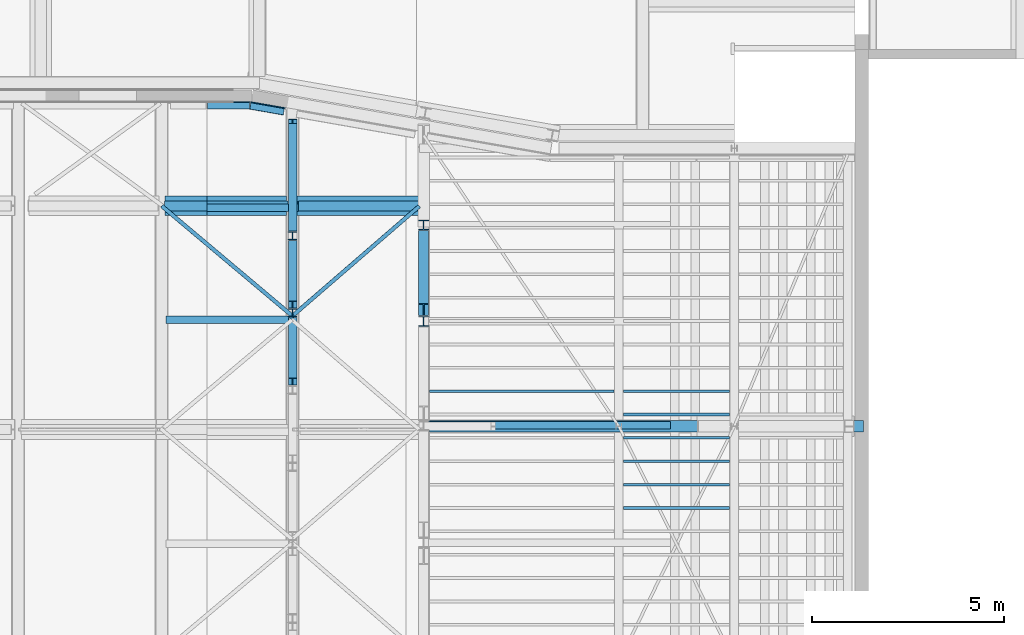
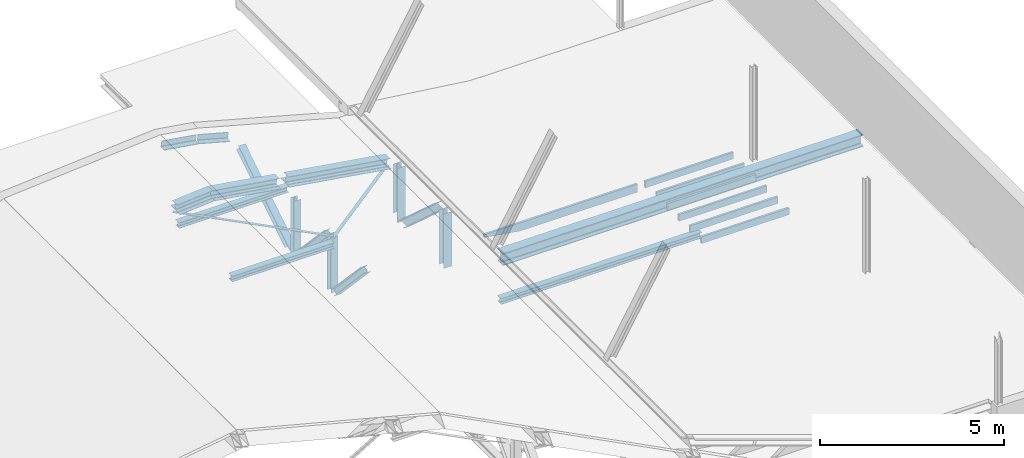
# One storey, part 30 of 50: 26 beams.
"""IFC2X3 building model written with IfcOpenShell, lengths in millimetres."""

from ifc_helpers import new_model, entity, si_unit, converted_unit, derived_unit, direction, frame, frame_2d, origin, place, context, subcontext, project, spatial, polyline, circle_curve, parameter, trimmed, segment, composite_curve, rectangle, i_section, outline, extrude, clip, halfspace, bounded_halfspace, source, transform, mapped, material, material_list, type_object, type_shapes, element, save


model = new_model("IFC2X3")

# Units and contexts
model_context = context("Model", 3, precision=0.01, world=origin(), true_north=direction((6.12303176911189e-17, 1.0)))
body_context = subcontext(model_context, "Body", "Model", "MODEL_VIEW")
ifc_project = project(units=[si_unit("LENGTHUNIT", "METRE", prefix="MILLI"), si_unit("AREAUNIT", "SQUARE_METRE", prefix="MILLI"), si_unit("VOLUMEUNIT", "CUBIC_METRE"), converted_unit("PLANEANGLEUNIT", "DEGREE", entity("IfcRatioMeasure", 0.0174532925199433), si_unit("PLANEANGLEUNIT", "RADIAN"), dimensions=[0, 0, 0, 0, 0, 0, 0]), si_unit("MASSUNIT", "GRAM", prefix="KILO"), derived_unit("MASSDENSITYUNIT", [(si_unit("MASSUNIT", "GRAM", prefix="KILO"), 1), (si_unit("LENGTHUNIT", "METRE"), -3)]), derived_unit("MOMENTOFINERTIAUNIT", [(si_unit("LENGTHUNIT", "METRE"), 4)]), si_unit("TIMEUNIT", "SECOND"), si_unit("FREQUENCYUNIT", "HERTZ"), si_unit("THERMODYNAMICTEMPERATUREUNIT", "DEGREE_CELSIUS"), derived_unit("THERMALTRANSMITTANCEUNIT", [(si_unit("MASSUNIT", "GRAM", prefix="KILO"), 1), (si_unit("THERMODYNAMICTEMPERATUREUNIT", "KELVIN"), -1), (si_unit("TIMEUNIT", "SECOND"), -3)]), derived_unit("VOLUMETRICFLOWRATEUNIT", [(si_unit("LENGTHUNIT", "METRE"), 3), (si_unit("TIMEUNIT", "SECOND"), -1)]), si_unit("ELECTRICCURRENTUNIT", "AMPERE"), si_unit("ELECTRICVOLTAGEUNIT", "VOLT"), si_unit("POWERUNIT", "WATT"), si_unit("FORCEUNIT", "NEWTON", prefix="KILO"), si_unit("ILLUMINANCEUNIT", "LUX"), si_unit("LUMINOUSFLUXUNIT", "LUMEN"), si_unit("LUMINOUSINTENSITYUNIT", "CANDELA"), derived_unit("USERDEFINED", [(si_unit("MASSUNIT", "GRAM", prefix="KILO"), -1), (si_unit("LENGTHUNIT", "METRE"), -2), (si_unit("TIMEUNIT", "SECOND"), 3), (si_unit("LUMINOUSFLUXUNIT", "LUMEN"), 1)]), derived_unit("LINEARVELOCITYUNIT", [(si_unit("LENGTHUNIT", "METRE"), 1), (si_unit("TIMEUNIT", "SECOND"), -1)]), si_unit("PRESSUREUNIT", "PASCAL"), derived_unit("USERDEFINED", [(si_unit("LENGTHUNIT", "METRE"), -2), (si_unit("MASSUNIT", "GRAM", prefix="KILO"), 1), (si_unit("TIMEUNIT", "SECOND"), -2)]), derived_unit("LINEARFORCEUNIT", [(si_unit("MASSUNIT", "GRAM", prefix="KILO"), 1), (si_unit("LENGTHUNIT", "METRE"), 1), (si_unit("TIMEUNIT", "SECOND"), -2), (si_unit("LENGTHUNIT", "METRE"), -1)]), derived_unit("PLANARFORCEUNIT", [(si_unit("MASSUNIT", "GRAM", prefix="KILO"), 1), (si_unit("LENGTHUNIT", "METRE"), 1), (si_unit("TIMEUNIT", "SECOND"), -2), (si_unit("LENGTHUNIT", "METRE"), -2)])], contexts=[model_context])

# Site, building, storey
site_placement = place(None, origin())
site = spatial("IfcSite", under=ifc_project, at=site_placement, Name="Theater aan de Parade", CompositionType="ELEMENT")
building_placement = place(site_placement, origin())
building = spatial("IfcBuilding", under=site, at=building_placement, Name="Theater aan de Parade", CompositionType="ELEMENT")
storey_placement = place(building_placement, frame((0.0, 0.0, 15820.0)))
storey = spatial("IfcBuildingStorey", under=building, at=storey_placement, Name="04 vierde verdieping", CompositionType="ELEMENT", Elevation=15820.0)

# Beams
ifc_material_1 = material(Name="00_PBT_MAT_staal_S355")
beam_type_1 = type_object("IfcBeamType", Name="28_PBT_SF_staal_H-profiel:S355_HE220B", PredefinedType="NOTDEFINED")
beam_1_placement = place(storey_placement, frame((52739.1873742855, 40420.0, -650.0), z_axis=(0.0, -0.532042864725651, 0.846717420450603), x_axis=(0.0, 0.846717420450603, 0.532042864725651)))
element("IfcBeam", 1, at=beam_1_placement, inside=storey, type_object=beam_type_1, material=ifc_material_1, Name="28_PBT_SF_staal_H-profiel:S355_HE220B", ObjectType="28_PBT_SF_staal_H-profiel:S355_HE220B", context=body_context, shape_type="Clipping", body=[
    clip(clip(extrude(i_section(OverallWidth=220.000000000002, OverallDepth=220.000000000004, WebThickness=9.49999999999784, FlangeThickness=16.0000000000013, FilletRadius=17.999999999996, at=frame_2d((2.74980038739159e-12, -8.66862137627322e-12), x_axis=(0.0, 1.0))), frame((175.005249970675, 0.0, 0.0), z_axis=(1.0, 0.0, 0.0), x_axis=(0.0, 0.0, -1.0)), (0.0, 0.0, 1.0), 3339.94488535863), bounded_halfspace(frame((-13800.8287415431, -130.0, 8825.41480634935), z_axis=(-0.532042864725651, 0.0, -0.846717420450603), x_axis=(0.846717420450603, 0.0, -0.532042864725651)), False, frame((175.005249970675, 0.0, 0.0), z_axis=(1.0, 0.0, 0.0), x_axis=(0.0, 0.0, -1.0)), polyline([(94.0, 110.0), (110.0, 110.0), (110.0, -110.0), (94.0, -110.0), (94.0, -22.7500000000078), (76.0, -4.75000000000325), (-43.5679065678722, -4.74999999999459), (-43.5679065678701, 4.74999999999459), (76.0, 4.74999999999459), (94.0, 22.7499999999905), (94.0, 110.0)]))), bounded_halfspace(frame((160.480479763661, 130.0, 20.4525209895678), z_axis=(-0.846717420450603, 0.0, 0.532042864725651), x_axis=(0.532042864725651, 0.0, 0.846717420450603)), False, frame((175.005249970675, 0.0, 0.0), z_axis=(1.0, 0.0, 0.0), x_axis=(0.0, 0.0, -1.0)), polyline([(-76.0, 4.74999999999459), (-43.5679065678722, 4.75000000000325), (-43.5679065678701, -4.75000000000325), (-76.0, -4.75000000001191), (-94.0, -22.7500000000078), (-94.0, -110.0), (-110.0, -110.0), (-110.0, 110.0), (-94.0, 110.0), (-94.0, 22.7499999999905), (-76.0, 4.74999999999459)]))),
])
beam_type_2 = type_object("IfcBeamType", Name="28_PBT_SF_staal_H-profiel:S355_HE220A", PredefinedType="NOTDEFINED")
beam_2_placement = place(storey_placement, frame((52739.1873742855, 40420.0, -650.0), z_axis=(1.0, 0.0, 0.0), x_axis=(0.0, 0.0, 1.0)))
element("IfcBeam", 2, at=beam_2_placement, inside=storey, type_object=beam_type_2, material=ifc_material_1, Name="28_PBT_SF_staal_H-profiel:S355_HE220A", ObjectType="28_PBT_SF_staal_H-profiel:S355_HE220A", context=body_context, shape_type="SweptSolid", body=[
    extrude(i_section(OverallWidth=220.000000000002, OverallDepth=210.000000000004, WebThickness=6.99999999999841, FlangeThickness=10.9999999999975, FilletRadius=17.9999999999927, at=frame_2d((8.66862137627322e-12, 0.0), x_axis=(1.0, 0.0))), frame((122.700000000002, 0.0, 0.0), z_axis=(1.0, 0.0, 0.0), x_axis=(0.0, 0.0, -1.0)), (0.0, 0.0, 1.0), 1834.6),
])
beam_3_placement = place(storey_placement, frame((52739.1873742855, 38420.0, -650.0), z_axis=(1.0, 0.0, 0.0), x_axis=(0.0, 0.0, 1.0)))
element("IfcBeam", 3, at=beam_3_placement, inside=storey, type_object=beam_type_2, material=ifc_material_1, Name="28_PBT_SF_staal_H-profiel:S355_HE220A", ObjectType="28_PBT_SF_staal_H-profiel:S355_HE220A", context=body_context, shape_type="SweptSolid", body=[
    extrude(i_section(OverallWidth=220.000000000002, OverallDepth=210.000000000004, WebThickness=6.99999999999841, FlangeThickness=10.9999999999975, FilletRadius=17.9999999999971, at=frame_2d((8.66862137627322e-12, -8.66862137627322e-12), x_axis=(1.0, 0.0))), frame((122.700000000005, 0.0, 0.0), z_axis=(1.0, 0.0, 0.0), x_axis=(0.0, 0.0, -1.0)), (0.0, 0.0, 1.0), 1834.6),
])
beam_4_placement = place(storey_placement, frame((52739.1873742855, 38420.0, 1480.0), z_axis=(1.0, 0.0, 0.0), x_axis=(0.0, 0.684510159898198, -0.729003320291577)))
element("IfcBeam", 4, at=beam_4_placement, inside=storey, type_object=beam_type_2, material=ifc_material_1, Name="28_PBT_SF_staal_H-profiel:S355_HE220A", ObjectType="28_PBT_SF_staal_H-profiel:S355_HE220A", context=body_context, shape_type="Clipping", body=[
    clip(clip(clip(clip(extrude(i_section(OverallWidth=220.000000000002, OverallDepth=210.000000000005, WebThickness=6.99999999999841, FlangeThickness=11.0000000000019, FilletRadius=17.9999999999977, at=frame_2d((8.66862137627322e-12, -5.37880850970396e-12), x_axis=(1.0, 0.0))), frame((216.784367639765, 0.0, 0.0), z_axis=(1.0, 0.0, 0.0), x_axis=(0.0, 0.0, -1.0)), (0.0, 0.0, 1.0), 2524.6788227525), halfspace(frame((-8385.86626270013, -11852.744961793, 130.0), z_axis=(0.729003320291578, -0.684510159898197, 0.0), x_axis=(0.684510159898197, 0.729003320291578, 0.0)), False)), halfspace(frame((1563.4722012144, -1296.58203212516, -130.0), z_axis=(-0.684510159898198, -0.729003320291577, 0.0), x_axis=(-0.729003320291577, 0.684510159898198, 0.0)), False)), halfspace(frame((2761.36498103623, -20.8262216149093, 130.0), z_axis=(0.684510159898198, 0.729003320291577, 0.0), x_axis=(-0.729003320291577, 0.684510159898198, 0.0)), False)), halfspace(frame((-11757.7284442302, -12784.9425583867, -170.0), z_axis=(-0.729003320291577, 0.684510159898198, 0.0), x_axis=(0.684510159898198, 0.729003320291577, 0.0)), False)),
])
beam_5_placement = place(storey_placement, frame((52739.1873742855, 36420.0, 1480.0), z_axis=(1.0, 0.0, 0.0), x_axis=(0.0, 0.684510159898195, -0.72900332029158)))
element("IfcBeam", 5, at=beam_5_placement, inside=storey, type_object=beam_type_2, material=ifc_material_1, Name="28_PBT_SF_staal_H-profiel:S355_HE220A", ObjectType="28_PBT_SF_staal_H-profiel:S355_HE220A", context=body_context, shape_type="Clipping", body=[
    clip(clip(clip(clip(extrude(i_section(OverallWidth=220.000000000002, OverallDepth=210.000000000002, WebThickness=6.99999999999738, FlangeThickness=10.9999999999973, FilletRadius=17.9999999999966, at=frame_2d((8.66862137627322e-12, 7.38964445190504e-13), x_axis=(1.0, 0.0))), frame((216.78436763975, 0.0, 0.0), z_axis=(1.0, 0.0, 0.0), x_axis=(0.0, 0.0, -1.0)), (0.0, 0.0, 1.0), 2524.6788227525), halfspace(frame((-7016.84594290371, -10394.7383212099, 130.0), z_axis=(0.72900332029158, -0.684510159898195, 0.0), x_axis=(0.684510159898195, 0.72900332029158, 0.0)), False)), halfspace(frame((1563.47220121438, -1296.58203212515, -130.0), z_axis=(-0.684510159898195, -0.72900332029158, 0.0), x_axis=(-0.72900332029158, 0.684510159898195, 0.0)), False)), halfspace(frame((2761.36498103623, -20.8262216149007, 130.0), z_axis=(0.684510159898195, 0.72900332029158, 0.0), x_axis=(-0.72900332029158, 0.684510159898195, 0.0)), False)), halfspace(frame((-10388.7081244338, -11326.9359178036, -170.0), z_axis=(-0.72900332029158, 0.684510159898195, 0.0), x_axis=(0.684510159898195, 0.72900332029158, 0.0)), False)),
])
beam_type_3 = type_object("IfcBeamType", Name="28_PBT_SF_staal_L-profiel:S355_L200x200x20", PredefinedType="NOTDEFINED")
beam_6_placement = place(storey_placement, frame((50584.5809422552, 43853.1999999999, 2059.28942153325), z_axis=(0.156434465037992, 0.0, 0.987688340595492), x_axis=(0.987688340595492, 0.0, -0.156434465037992)))
element("IfcBeam", 6, at=beam_6_placement, inside=storey, type_object=beam_type_3, material=ifc_material_1, Name="28_PBT_SF_staal_L-profiel:S355_L200x200x20", ObjectType="28_PBT_SF_staal_L-profiel:S355_L200x200x20", context=body_context, shape_type="SweptSolid", body=[
    extrude(outline(composite_curve([segment(polyline([(64.5555555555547, -124.444444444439), (75.5555555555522, -124.444444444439)]), True, "CONTINUOUS"), segment(polyline([(75.5555555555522, -124.444444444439), (75.5555555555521, 75.5555555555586)]), True, "CONTINUOUS"), segment(polyline([(75.5555555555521, 75.5555555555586), (-124.44444444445, 75.5555555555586)]), True, "CONTINUOUS"), segment(polyline([(-124.444444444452, 75.5555555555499), (-124.44444444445, 64.5555555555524)]), True, "CONTINUOUS"), segment(trimmed(circle_curve(frame_2d((-115.444444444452, 64.5555555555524), x_axis=(-1.0, 0.0)), 8.99999999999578), [parameter(0.0)], [parameter(90.0000000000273)], True, "PARAMETER"), True, "CONTINUOUS"), segment(polyline([(-115.444444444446, 55.5555555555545), (37.5555555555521, 55.5555555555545)]), True, "CONTINUOUS"), segment(trimmed(circle_curve(frame_2d((37.5555555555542, 37.5555555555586), x_axis=(0.0, 1.0)), 17.9999999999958), [parameter(269.999999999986)], [parameter(0.0)], True, "PARAMETER"), False, "CONTINUOUS"), segment(polyline([(55.5555555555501, 37.5555555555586), (55.5555555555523, -115.444444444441)]), True, "CONTINUOUS"), segment(trimmed(circle_curve(frame_2d((64.555555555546, -115.444444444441), x_axis=(-1.0, 0.0)), 8.99999999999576), [parameter(0.0)], [parameter(90.000000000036)], True, "PARAMETER"), True, "CONTINUOUS")], self_intersect=False)), frame((0.0, -18.7555555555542, -319.444444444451), z_axis=(1.0, 0.0, 0.0), x_axis=(0.0, 0.0, -1.0)), (0.0, 0.0, 1.0), 1102.47200859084),
])
beam_7_placement = place(storey_placement, frame((51708.598092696, 43851.0969372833, 1881.26259424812), z_axis=(0.15184123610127, -0.0265722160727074, 0.988047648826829), x_axis=(0.973257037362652, -0.170319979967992, -0.154148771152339)))
element("IfcBeam", 7, at=beam_7_placement, inside=storey, type_object=beam_type_3, material=ifc_material_1, Name="28_PBT_SF_staal_L-profiel:S355_L200x200x20", ObjectType="28_PBT_SF_staal_L-profiel:S355_L200x200x20", context=body_context, shape_type="SweptSolid", body=[
    extrude(outline(composite_curve([segment(polyline([(-75.5555555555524, -75.555555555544), (124.444444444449, -75.5555555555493)]), True, "CONTINUOUS"), segment(polyline([(124.444444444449, -75.555555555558), (124.444444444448, -64.555555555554)]), True, "CONTINUOUS"), segment(trimmed(circle_curve(frame_2d((115.444444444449, -64.5555555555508), x_axis=(1.0, 0.0)), 8.99999999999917), [parameter(0.0)], [parameter(90.0000000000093)], True, "PARAMETER"), True, "CONTINUOUS"), segment(polyline([(115.444444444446, -55.55555555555), (-37.5555555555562, -55.5555555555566)]), True, "CONTINUOUS"), segment(trimmed(circle_curve(frame_2d((-37.5555555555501, -37.555555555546), x_axis=(0.0, -1.0)), 18.0000000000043), [parameter(270.000000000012)], [parameter(0.0)], True, "PARAMETER"), False, "CONTINUOUS"), segment(polyline([(-55.5555555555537, -37.5555555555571), (-55.5555555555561, 115.444444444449)]), True, "CONTINUOUS"), segment(trimmed(circle_curve(frame_2d((-64.5555555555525, 115.444444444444), x_axis=(1.0, 0.0)), 8.99999999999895), [parameter(0.0)], [parameter(90.0000000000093)], True, "PARAMETER"), True, "CONTINUOUS"), segment(polyline([(-64.5555555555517, 124.444444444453), (-75.5555555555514, 124.444444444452)]), True, "CONTINUOUS"), segment(polyline([(-75.5555555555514, 124.444444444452), (-75.5555555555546, -75.5555555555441)]), True, "CONTINUOUS")], self_intersect=False)), frame((0.0, -27.3629456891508, -318.822510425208), z_axis=(1.0, 0.0, 0.0), x_axis=(0.0, 0.0269662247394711, 0.999636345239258)), (0.0, 0.0, 1.0), 893.107966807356),
])
beam_type_4 = type_object("IfcBeamType", Name="28_PBT_SF_staal_H-profiel:S355_HE200A", PredefinedType="NOTDEFINED")
beam_8_placement = place(storey_placement, frame((52629.1873742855, 38240.0, 0.0), z_axis=(0.0, 0.0, 1.0), x_axis=(-1.0, 0.0, 0.0)))
element("IfcBeam", 8, at=beam_8_placement, inside=storey, type_object=beam_type_4, material=ifc_material_1, Name="28_PBT_SF_staal_H-profiel:S355_HE200A", ObjectType="28_PBT_SF_staal_H-profiel:S355_HE200A", context=body_context, shape_type="SweptSolid", body=[
    extrude(i_section(OverallWidth=199.999999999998, OverallDepth=190.0, WebThickness=6.50000000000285, FlangeThickness=9.99999999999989, FilletRadius=18.0000000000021, at=frame_2d((2.16715534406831e-12, 2.16715534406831e-12), x_axis=(0.0, 1.0))), frame((0.0, 0.0, 1165.0), z_axis=(1.0, 0.0, 0.0), x_axis=(0.0, 0.0, -1.0)), (0.0, 0.0, 1.0), 3184.18737428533),
])
beam_9_placement = place(storey_placement, frame((52889.1873742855, 41150.0, 0.0), z_axis=(0.0, 0.0, 1.0), x_axis=(-1.0, 0.0, 0.0)))
element("IfcBeam", 9, at=beam_9_placement, inside=storey, type_object=beam_type_4, material=ifc_material_1, Name="28_PBT_SF_staal_H-profiel:S355_HE200A", ObjectType="28_PBT_SF_staal_H-profiel:S355_HE200A", context=body_context, shape_type="SweptSolid", body=[
    extrude(i_section(OverallWidth=199.999999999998, OverallDepth=190.0, WebThickness=6.49999999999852, FlangeThickness=9.99999999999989, FilletRadius=17.9999999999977, at=frame_2d((2.16715534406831e-12, -4.33431068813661e-12), x_axis=(0.0, 1.0))), frame((0.0, 0.0, 1165.0), z_axis=(1.0, 0.0, 0.0), x_axis=(0.0, 0.0, -1.0)), (0.0, 0.0, 1.0), 3432.76164612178),
])
beam_10_placement = place(storey_placement, frame((62560.0, 35500.0, 0.0), z_axis=(0.0, 0.0, 1.0), x_axis=(-1.0, 0.0, 0.0)))
element("IfcBeam", 10, at=beam_10_placement, inside=storey, type_object=beam_type_4, material=ifc_material_1, Name="28_PBT_SF_staal_H-profiel:S355_HE200A", ObjectType="28_PBT_SF_staal_H-profiel:S355_HE200A", context=body_context, shape_type="SweptSolid", body=[
    extrude(i_section(OverallWidth=199.999999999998, OverallDepth=190.0, WebThickness=6.50000000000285, FlangeThickness=9.99999999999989, FilletRadius=18.0000000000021, at=frame_2d((0.0, -2.16715534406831e-12), x_axis=(0.0, 1.0))), frame((0.0, 0.0, -310.0), z_axis=(1.0, 0.0, 0.0), x_axis=(0.0, 0.0, -1.0)), (0.0, 0.0, 1.0), 6286.62525142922),
])
beam_type_5 = type_object("IfcBeamType", Name="28_PBT_SF_staal_H-profiel:S355_HE260B", PredefinedType="NOTDEFINED")
beam_11_placement = place(storey_placement, frame((56143.3747485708, 38200.0, 1290.0), z_axis=(0.0, 0.66896473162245, 0.743294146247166), x_axis=(0.0, 0.743294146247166, -0.66896473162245)))
element("IfcBeam", 11, at=beam_11_placement, inside=storey, type_object=beam_type_5, material=ifc_material_1, Name="28_PBT_SF_staal_H-profiel:S355_HE260B", ObjectType="28_PBT_SF_staal_H-profiel:S355_HE260B", context=body_context, shape_type="Clipping", body=[
    clip(clip(clip(clip(extrude(outline(composite_curve([segment(polyline([(112.499999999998, -130.0), (130.0, -130.0)]), True, "CONTINUOUS"), segment(polyline([(130.0, -130.0), (130.0, 130.0)]), True, "CONTINUOUS"), segment(polyline([(130.0, 130.0), (112.5, 130.0)]), True, "CONTINUOUS"), segment(polyline([(112.500000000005, 130.0), (112.5, 29.0)]), True, "CONTINUOUS"), segment(trimmed(circle_curve(frame_2d((88.4999999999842, 29.0), x_axis=(1.0, 0.0)), 24.0000000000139), [parameter(270.000000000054)], [parameter(0.0)], True, "PARAMETER"), False, "CONTINUOUS"), segment(polyline([(88.499999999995, 5.0), (-88.5000000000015, 5.0)]), True, "CONTINUOUS"), segment(trimmed(circle_curve(frame_2d((-88.4999999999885, 29.0), x_axis=(0.0, -1.0)), 24.000000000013), [parameter(270.00000000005)], [parameter(0.0)], True, "PARAMETER"), False, "CONTINUOUS"), segment(polyline([(-112.5, 29.0), (-112.5, 130.0)]), True, "CONTINUOUS"), segment(polyline([(-112.5, 130.0), (-130.0, 130.0)]), True, "CONTINUOUS"), segment(polyline([(-130.0, 130.0), (-130.0, -130.0)]), True, "CONTINUOUS"), segment(polyline([(-130.0, -130.0), (-112.5, -130.0)]), True, "CONTINUOUS"), segment(polyline([(-112.5, -130.0), (-112.5, -29.0)]), True, "CONTINUOUS"), segment(trimmed(circle_curve(frame_2d((-88.4999999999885, -29.0), x_axis=(-1.0, 0.0)), 24.000000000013), [parameter(270.00000000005)], [parameter(0.0)], True, "PARAMETER"), False, "CONTINUOUS"), segment(polyline([(-88.4999999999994, -5.0), (88.4999999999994, -5.0)]), True, "CONTINUOUS"), segment(trimmed(circle_curve(frame_2d((88.4999999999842, -29.0), x_axis=(0.0, 1.0)), 24.0000000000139), [parameter(270.000000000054)], [parameter(0.0)], True, "PARAMETER"), False, "CONTINUOUS"), segment(polyline([(112.500000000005, -29.0), (112.500000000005, -130.0)]), True, "CONTINUOUS")], self_intersect=False)), frame((271.674010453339, 0.0, 0.0), z_axis=(1.0, 0.0, 0.0), x_axis=(0.0, 0.0, -1.0)), (0.0, 0.0, 1.0), 2836.7821091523), halfspace(frame((-9215.40324058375, -170.0, -11024.9485980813), z_axis=(0.66896473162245, 0.0, -0.743294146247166), x_axis=(0.743294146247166, 0.0, 0.66896473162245)), False)), halfspace(frame((1484.0387935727, 150.0, -1432.17916098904), z_axis=(-0.743294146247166, 0.0, -0.66896473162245), x_axis=(-0.66896473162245, 0.0, 0.743294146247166)), False)), halfspace(frame((3126.71885677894, -150.0, 46.232895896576), z_axis=(0.743294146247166, 0.0, 0.66896473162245), x_axis=(-0.66896473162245, 0.0, 0.743294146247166)), False)), halfspace(frame((-12233.3360800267, 170.0, -11339.6162611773), z_axis=(-0.66896473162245, 0.0, 0.743294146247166), x_axis=(0.743294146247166, 0.0, 0.66896473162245)), False)),
])
ifc_material_2 = material(Name="00_PBT_MAT_staal")
beam_type_6 = type_object("IfcBeamType", Name="28_PBT_SF_staal_strip:strip 100x10", PredefinedType="NOTDEFINED")
beam_12_placement = place(storey_placement, frame((52733.8997913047, 38285.4878460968, 1718.87075855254), z_axis=(0.0899792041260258, 0.0778065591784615, 0.99289973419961), x_axis=(0.751047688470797, 0.649443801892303, -0.118954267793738)))
element("IfcBeam", 12, at=beam_12_placement, inside=storey, type_object=beam_type_6, material=ifc_material_2, Name="28_PBT_SF_staal_strip:strip 100x10", ObjectType="28_PBT_SF_staal_strip:strip 100x10", context=body_context, shape_type="SweptSolid", body=[
    extrude(rectangle(XDim=10.0000000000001, YDim=99.9999999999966, at=frame_2d((6.07514039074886e-12, -6.77236045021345e-13), x_axis=(0.0, 1.0))), frame((0.0, 41.4403721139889, -402.874292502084), z_axis=(1.0, 0.0, 0.0), x_axis=(0.0, -0.994751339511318, -0.102321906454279)), (0.0, 0.0, 1.0), 4473.55954864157),
])
beam_13_placement = place(storey_placement, frame((49341.9024959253, 41194.8133673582, 1589.46746619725), z_axis=(0.0450844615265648, -0.0379427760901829, 0.99826235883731), x_axis=(0.76377472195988, -0.642787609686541, -0.0589259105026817)))
element("IfcBeam", 13, at=beam_13_placement, inside=storey, type_object=beam_type_6, material=ifc_material_2, Name="28_PBT_SF_staal_strip:strip 100x10", ObjectType="28_PBT_SF_staal_strip:strip 100x10", context=body_context, shape_type="SweptSolid", body=[
    extrude(rectangle(XDim=10.0000000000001, YDim=99.9999999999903, at=frame_2d((0.0, 0.0), x_axis=(0.0, 1.0))), frame((0.0, -0.247653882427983, -4.99386298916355), z_axis=(1.0, 0.0, 0.0), x_axis=(0.0, -0.998772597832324, 0.0495307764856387)), (0.0, 0.0, 1.0), 4430.68427961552),
])
ifc_material_3 = material(Name="00_PBT_MAT_Lucht")
ifc_material_list_1 = material_list([ifc_material_3, ifc_material_1])
beam_type_7 = type_object("IfcBeamType", Name="28_PBT_SF_staal_H-profiel_met_onderplaat (void):S355_HE260A + onderplaat d=12", PredefinedType="BEAM", material=ifc_material_list_1)
shared_shape_1 = source(origin(), body_context, "Body", "Clipping", [
    clip(extrude(i_section(OverallWidth=260.000000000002, OverallDepth=250.000000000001, WebThickness=7.49999999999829, FlangeThickness=12.5, FilletRadius=24.0000000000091, at=frame_2d((4.32009983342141e-12, 2.1458390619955e-12), x_axis=(1.0, 0.0))), frame((50495.0112438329, 41198.5633673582, 17640.3595866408), z_axis=(0.987688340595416, 0.0, -0.156434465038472), x_axis=(0.0, 1.0, 0.0)), (0.0, 0.0, 1.0), 2131.0900858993), halfspace(frame((50514.5655519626, 32410.0, 23110.0), z_axis=(-1.0, 0.0, 0.0), x_axis=(0.0, 0.0, 1.0)), False)),
    clip(extrude(rectangle(XDim=11.9999999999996, YDim=509.999999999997, at=frame_2d((-4.33431068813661e-12, 1.0689227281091e-12), x_axis=(0.0, 1.0))), frame((50513.6269451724, 41198.5633673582, 17504.7782177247), z_axis=(0.987688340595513, 0.0, -0.156434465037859), x_axis=(0.0, 1.0, 0.0)), (0.0, 0.0, 1.0), 2091.49397581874), halfspace(frame((50514.5655519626, 32410.0, 23110.0), z_axis=(-1.0, 0.0, 0.0), x_axis=(0.0, 0.0, 1.0)), False)),
])
type_shapes(beam_type_7, [shared_shape_1])
beam_14_placement = place(storey_placement, frame((0.0, 0.0, -15820.0)))
element("IfcBeam", 14, at=beam_14_placement, inside=storey, type_object=beam_type_7, material=ifc_material_1, Name="28_PBT_SF_staal_H-profiel_met_onderplaat (void):S355_HE260A + onderplaat d=12", ObjectType="28_PBT_SF_staal_H-profiel_met_onderplaat (void):S355_HE260A + onderplaat d=12", context=body_context, shape_type="MappedRepresentation", body=[
    mapped(shared_shape_1, transform((0.0, 0.0, 0.0), scale=1.0)),
])
ifc_material_list_2 = material_list([ifc_material_3, ifc_material_1])
beam_type_8 = type_object("IfcBeamType", Name="28_PBT_SF_staal_H-profiel_met_onderplaat (void):S355_HE260A + onderplaat d=12", PredefinedType="BEAM", material=ifc_material_list_2)
shared_shape_2 = source(origin(), body_context, "Body", "SweptSolid", [
    extrude(rectangle(XDim=12.0, YDim=510.0, at=frame_2d((6.26165785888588e-13, -1.4210854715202e-14), x_axis=(1.0, 0.0))), frame((-1607.76153233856, 0.0, -131.0), z_axis=(1.0, 0.0, 0.0), x_axis=(0.0, 0.0, -1.0)), (0.0, 0.0, 1.0), 3215.52306467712),
    extrude(i_section(OverallWidth=260.0, OverallDepth=250.0, WebThickness=7.49999999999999, FlangeThickness=12.4999999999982, FilletRadius=24.0, at=frame_2d((-4.05009359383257e-13, 0.0), x_axis=(0.0, 1.0))), frame((-1607.76153233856, 0.0, 0.0), z_axis=(1.0, 0.0, 0.0), x_axis=(0.0, 0.0, -1.0)), (0.0, 0.0, 1.0), 3215.52306467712),
])
type_shapes(beam_type_8, [shared_shape_2])
beam_15_placement = place(storey_placement, frame((54466.6804133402, 41198.5633673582, 1191.30898808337), z_axis=(0.156434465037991, 0.0, 0.987688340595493), x_axis=(0.987688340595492, 0.0, -0.156434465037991)))
element("IfcBeam", 15, at=beam_15_placement, inside=storey, type_object=beam_type_8, material=ifc_material_1, Name="28_PBT_SF_staal_H-profiel_met_onderplaat (void):S355_HE260A + onderplaat d=12", ObjectType="28_PBT_SF_staal_H-profiel_met_onderplaat (void):S355_HE260A + onderplaat d=12", context=body_context, shape_type="MappedRepresentation", body=[
    mapped(shared_shape_2, transform((0.0, 0.0, 0.0), scale=1.0)),
])
ifc_material_list_3 = material_list([ifc_material_1, ifc_material_3])
beam_type_9 = type_object("IfcBeamType", Name="28_PBT_SF_staal_H-profiel_met_onderplaat (void):S355_HE260A + onderplaat d=12", PredefinedType="BEAM", material=ifc_material_list_3)
shared_shape_3 = source(origin(), body_context, "Body", "Clipping", [
    clip(extrude(i_section(OverallWidth=260.000000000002, OverallDepth=250.0, WebThickness=7.49999999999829, FlangeThickness=12.499999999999, FilletRadius=24.0000000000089, at=frame_2d((4.32009983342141e-12, 1.08002495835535e-12), x_axis=(1.0, 0.0))), frame((49416.4124148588, 41198.5633673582, 17553.5190495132), z_axis=(0.996820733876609, 0.0, 0.079677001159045), x_axis=(0.0, -1.0, 0.0)), (0.0, 0.0, 1.0), 1111.64698384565), halfspace(frame((50514.5655519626, 32410.0, 23110.0), z_axis=(1.0, 0.0, 0.0), x_axis=(0.0, 0.0, 1.0)), False)),
    clip(extrude(rectangle(XDim=12.0000000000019, YDim=509.999999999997, at=frame_2d((4.33431068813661e-12, 2.15871764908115e-12), x_axis=(0.0, 1.0))), frame((49426.8501020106, 41198.5633673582, 17422.9355333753), z_axis=(0.996820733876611, 0.0, 0.0796770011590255), x_axis=(0.0, -1.0, 0.0)), (0.0, 0.0, 1.0), 1091.66420297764), halfspace(frame((50514.5655519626, 32410.0, 23110.0), z_axis=(1.0, 0.0, 0.0), x_axis=(0.0, 0.0, 1.0)), False)),
])
type_shapes(beam_type_9, [shared_shape_3])
beam_16_placement = place(storey_placement, frame((0.0, 0.0, -15820.0)))
element("IfcBeam", 16, at=beam_16_placement, inside=storey, type_object=beam_type_9, material=ifc_material_1, Name="28_PBT_SF_staal_H-profiel_met_onderplaat (void):S355_HE260A + onderplaat d=12", ObjectType="28_PBT_SF_staal_H-profiel_met_onderplaat (void):S355_HE260A + onderplaat d=12", context=body_context, shape_type="MappedRepresentation", body=[
    mapped(shared_shape_3, transform((0.0, 0.0, 0.0), scale=1.0)),
])
beam_type_10 = type_object("IfcBeamType", Name="28_PBT_SF_staal_H-profiel:S355_HE400B", PredefinedType="NOTDEFINED")
beam_17_placement = place(storey_placement, frame((56293.3747485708, 35472.499995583, 0.0)))
element("IfcBeam", 17, at=beam_17_placement, inside=storey, type_object=beam_type_10, material=ifc_material_1, Name="28_PBT_SF_staal_H-profiel:S355_HE400B", ObjectType="28_PBT_SF_staal_H-profiel:S355_HE400B", context=body_context, shape_type="SweptSolid", body=[
    extrude(i_section(OverallWidth=300.000000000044, OverallDepth=400.0, WebThickness=13.4999999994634, FlangeThickness=23.9999999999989, FilletRadius=26.9999999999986, at=frame_2d((0.0, -2.17426077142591e-12), x_axis=(0.0, 1.0))), frame((0.0, 0.0, 1120.0), z_axis=(1.0, 0.0, 0.0), x_axis=(0.0, 0.0, -1.0)), (0.0, 0.0, 1.0), 11276.6252514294),
])
ifc_material_4 = material(Name="00_PBT_MAT_hout")
beam_type_11 = type_object("IfcBeamType", Name="28_PBT_SF_rechthoekig hout:70x270", PredefinedType="NOTDEFINED")
beam_18_placement = place(storey_placement, frame((61216.0560363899, 36386.0, 0.0), z_axis=(0.0, 0.0, 1.0), x_axis=(-1.0, 0.0, 0.0)))
element("IfcBeam", 18, at=beam_18_placement, inside=storey, type_object=beam_type_11, material=ifc_material_4, Name="28_PBT_SF_rechthoekig hout:70x270", ObjectType="28_PBT_SF_rechthoekig hout:70x270", context=body_context, shape_type="Clipping", body=[
    clip(extrude(rectangle(XDim=270.000000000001, YDim=70.0000000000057, at=frame_2d((2.16715534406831e-12, 0.0), x_axis=(0.0, 1.0))), frame((122.699999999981, 0.0, 1187.0), z_axis=(1.0, 0.0, 0.0), x_axis=(0.0, 1.0, 0.0)), (0.0, 0.0, 1.0), 4799.9812878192), halfspace(frame((2971.92563283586, 4922.68128781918, 920.0), z_axis=(0.156434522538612, 0.0, -0.987688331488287), x_axis=(0.0, -1.0, 0.0)), False)),
])
beam_type_12 = type_object("IfcBeamType", Name="28_PBT_SF_rechthoekig hout:70x220", PredefinedType="NOTDEFINED")
for number, where, name in (
    (19, (61216.05603639, 33351.0, 0.0), "28_PBT_SF_rechthoekig hout:70x220"),
    (20, (61216.05603639, 33958.0, 0.0), "28_PBT_SF_rechthoekig hout:70x220"),
):
    element("IfcBeam", number, at=place(storey_placement, frame(where)), inside=storey, type_object=beam_type_12, material=ifc_material_4, Name=name, ObjectType="28_PBT_SF_rechthoekig hout:70x220", context=body_context, shape_type="SweptSolid", body=[
        extrude(rectangle(XDim=220.0, YDim=70.0000000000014, at=frame_2d((1.08002495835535e-12, -2.16360263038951e-12), x_axis=(1.0, 0.0))), frame((122.699999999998, 0.0, 1212.0), z_axis=(1.0, 0.0, 0.0), x_axis=(0.0, 0.0, -1.0)), (0.0, 0.0, 1.0), 2754.59999999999),
    ])
beam_19_placement = place(storey_placement, frame((61216.05603639, 34565.0, 0.0)))
element("IfcBeam", 21, at=beam_19_placement, inside=storey, type_object=beam_type_12, material=ifc_material_4, Name="28_PBT_SF_rechthoekig hout:70x220", ObjectType="28_PBT_SF_rechthoekig hout:70x220", context=body_context, shape_type="SweptSolid", body=[
    extrude(rectangle(XDim=220.0, YDim=70.0000000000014, at=frame_2d((1.08002495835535e-12, 2.16360263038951e-12), x_axis=(1.0, 0.0))), frame((122.699999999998, 0.0, 1212.0), z_axis=(1.0, 0.0, 0.0), x_axis=(0.0, 0.0, -1.0)), (0.0, 0.0, 1.0), 2754.59999999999),
])
for number, where, name in (
    (22, (61216.05603639, 35172.0, 0.0), "28_PBT_SF_rechthoekig hout:70x220"),
    (23, (61216.05603639, 35779.0, 0.0), "28_PBT_SF_rechthoekig hout:70x220"),
    (24, (61216.05603639, 36386.0, 0.0), "28_PBT_SF_rechthoekig hout:70x220"),
):
    element("IfcBeam", number, at=place(storey_placement, frame(where)), inside=storey, type_object=beam_type_12, material=ifc_material_4, Name=name, ObjectType="28_PBT_SF_rechthoekig hout:70x220", context=body_context, shape_type="SweptSolid", body=[
        extrude(rectangle(XDim=220.0, YDim=70.0000000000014, at=frame_2d((1.08002495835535e-12, -2.16360263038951e-12), x_axis=(1.0, 0.0))), frame((122.699999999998, 0.0, 1212.0), z_axis=(1.0, 0.0, 0.0), x_axis=(0.0, 0.0, -1.0)), (0.0, 0.0, 1.0), 2754.59999999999),
    ])
beam_type_13 = type_object("IfcBeamType", Name="28_PBT_SF_staal_H-profiel:S355_HE260A", PredefinedType="NOTDEFINED")
beam_20_placement = place(storey_placement, frame((56143.3747485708, 38200.0, -960.0), z_axis=(1.0, 0.0, 0.0), x_axis=(0.0, 0.0, 1.0)))
element("IfcBeam", 25, at=beam_20_placement, inside=storey, type_object=beam_type_13, material=ifc_material_1, Name="28_PBT_SF_staal_H-profiel:S355_HE260A", ObjectType="28_PBT_SF_staal_H-profiel:S355_HE260A", context=body_context, shape_type="SweptSolid", body=[
    extrude(i_section(OverallWidth=260.000000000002, OverallDepth=249.999999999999, WebThickness=7.49999999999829, FlangeThickness=12.4999999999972, FilletRadius=24.0000000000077, at=frame_2d((4.32009983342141e-12, -2.16715534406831e-12), x_axis=(1.0, 0.0))), frame((212.699999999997, 0.0, 0.0), z_axis=(1.0, 0.0, 0.0), x_axis=(0.0, 0.0, -1.0)), (0.0, 0.0, 1.0), 1799.6),
])
beam_21_placement = place(storey_placement, frame((56143.3747485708, 40700.0, -960.0), z_axis=(1.0, 0.0, 0.0), x_axis=(0.0, 0.0, 1.0)))
element("IfcBeam", 26, at=beam_21_placement, inside=storey, type_object=beam_type_13, material=ifc_material_1, Name="28_PBT_SF_staal_H-profiel:S355_HE260A", ObjectType="28_PBT_SF_staal_H-profiel:S355_HE260A", context=body_context, shape_type="Clipping", body=[
    clip(extrude(i_section(OverallWidth=260.000000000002, OverallDepth=249.999999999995, WebThickness=7.49999999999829, FlangeThickness=12.4999999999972, FilletRadius=24.0000000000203, at=frame_2d((2.16573425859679e-11, 0.0), x_axis=(1.0, 0.0))), frame((212.699999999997, 0.0, 0.0), z_axis=(1.0, 0.0, 0.0), x_axis=(0.0, 0.0, -1.0)), (0.0, 0.0, 1.0), 1799.6), halfspace(frame((97.019575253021, 224.086257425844, 170.0), z_axis=(-0.756168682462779, -0.65437674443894, 0.0), x_axis=(0.65437674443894, -0.756168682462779, 0.0)), False)),
])

save(model, "model.ifc")
